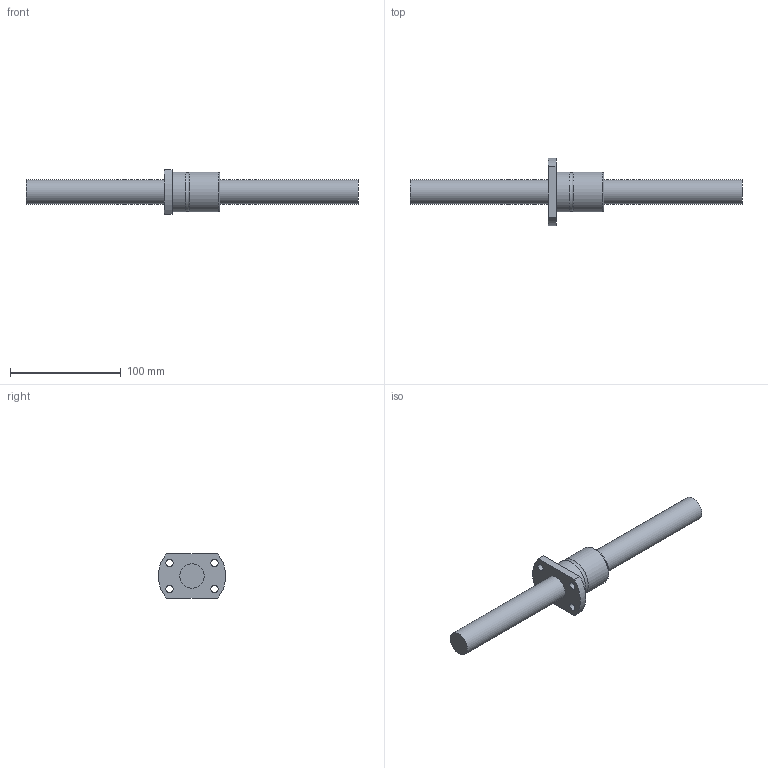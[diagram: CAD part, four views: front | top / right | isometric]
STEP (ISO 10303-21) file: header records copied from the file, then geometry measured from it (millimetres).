
FILE_DESCRIPTION((''),'2;1');
FILE_NAME('D:\製品 (図面)\カタログ用3D\ネジ関連\STEP形式\TMK-OH\TMK22-OH.stp','2010-06-02T15:28:41',('Tsuchiya'),(''),'Autodesk Inventor 10','Autodesk Inventor 10','');
FILE_SCHEMA(('AUTOMOTIVE_DESIGN { 1 0 10303 214 1 1 1 1 }'));
Length unit declared in the file: millimetre
Products named in the file (3): TMK22-OH; TMK22-OH1; TMK22-OH2
Assembly tree (2 placements, depth 2):
  TMK22-OH
    TMK22-OH1
    TMK22-OH2
Bounding box: 300 x 60.81 x 40 mm (x, y, z)
Volume: 153339.8 mm3; surface area: 35091.9 mm2
Topology: 2 solids, 2 shells, 21 faces, 49 edges, 33 vertices
Faces by surface type: cylinder 7, plane 7, bspline 6, torus 1
Full cylindrical faces by diameter (mm): 2.5 x1, 22 x2, 36 x2
Entity records: 872 total; most frequent: CARTESIAN_POINT 378, DIRECTION 92, ORIENTED_EDGE 64, EDGE_LOOP 46, AXIS2_PLACEMENT_3D 42, EDGE_CURVE 32, VERTEX_POINT 28, FACE_BOUND 25
